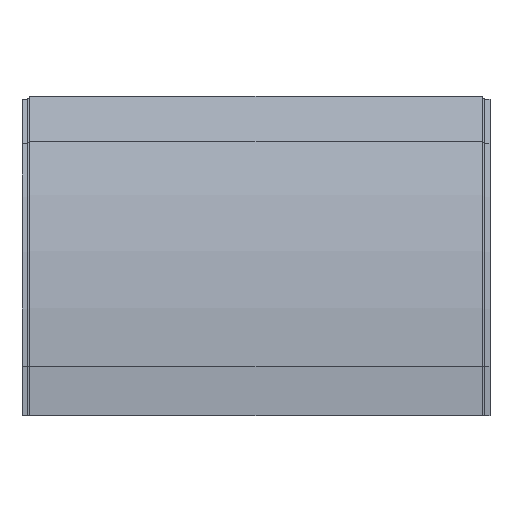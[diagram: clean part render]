
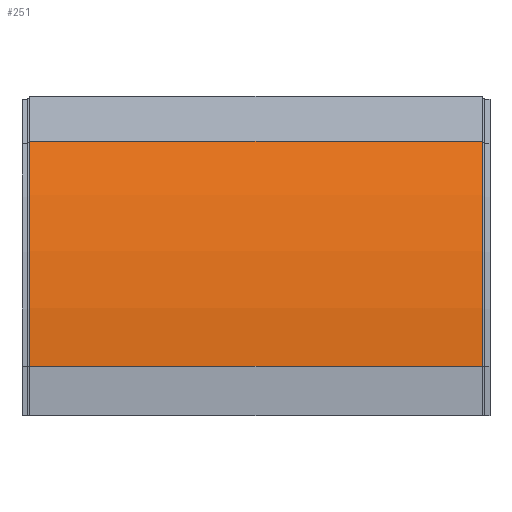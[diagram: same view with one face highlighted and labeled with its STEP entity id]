
A CAD part, front view. The second image highlights one B-rep face of the part: STEP entity #251.
In plain terms, the highlighted cylindrical face has radius 568.25 mm (diameter 1136.5 mm), a partial arc.
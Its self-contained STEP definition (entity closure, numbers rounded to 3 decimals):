
#49 = VERTEX_POINT ( 'NONE', #813 ) ;
#115 = EDGE_CURVE ( 'NONE', #117, #929, #1180, .T. ) ;
#117 = VERTEX_POINT ( 'NONE', #1379 ) ;
#172 = ORIENTED_EDGE ( 'NONE', *, *, #1185, .T. ) ;
#195 = EDGE_CURVE ( 'NONE', #49, #500, #1008, .T. ) ;
#213 = ORIENTED_EDGE ( 'NONE', *, *, #115, .F. ) ;
#251 = ADVANCED_FACE ( 'NONE', ( #722 ), #1333, .T. ) ;
#252 = DIRECTION ( 'NONE',  ( 1., 0., 0. ) ) ;
#280 = DIRECTION ( 'NONE',  ( 0., 0., 1. ) ) ;
#355 = CARTESIAN_POINT ( 'NONE',  ( -241.3, -15.009, 292.653 ) ) ;
#366 = AXIS2_PLACEMENT_3D ( 'NONE', #1044, #1139, #280 ) ;
#406 = LINE ( 'NONE', #355, #1245 ) ;
#409 = CARTESIAN_POINT ( 'NONE',  ( 241.3, 500., 52.5 ) ) ;
#414 = ORIENTED_EDGE ( 'NONE', *, *, #195, .T. ) ;
#500 = VERTEX_POINT ( 'NONE', #998 ) ;
#589 = ORIENTED_EDGE ( 'NONE', *, *, #1157, .F. ) ;
#659 = AXIS2_PLACEMENT_3D ( 'NONE', #1296, #747, #1069 ) ;
#664 = LINE ( 'NONE', #791, #1208 ) ;
#692 = DIRECTION ( 'NONE',  ( 1., 0., 0. ) ) ;
#722 = FACE_OUTER_BOUND ( 'NONE', #1130, .T. ) ;
#747 = DIRECTION ( 'NONE',  ( -1., 0., 0. ) ) ;
#791 = CARTESIAN_POINT ( 'NONE',  ( -241.3, -68.25, 52.5 ) ) ;
#806 = AXIS2_PLACEMENT_3D ( 'NONE', #409, #864, #1386 ) ;
#813 = CARTESIAN_POINT ( 'NONE',  ( 241.3, -68.25, 52.5 ) ) ;
#864 = DIRECTION ( 'NONE',  ( -1., 0., 0. ) ) ;
#870 = CARTESIAN_POINT ( 'NONE',  ( -241.3, -15.009, 292.653 ) ) ;
#929 = VERTEX_POINT ( 'NONE', #870 ) ;
#998 = CARTESIAN_POINT ( 'NONE',  ( 241.3, -15.009, 292.653 ) ) ;
#1008 = CIRCLE ( 'NONE', #806, 568.25 ) ;
#1044 = CARTESIAN_POINT ( 'NONE',  ( -241.3, 500., 52.5 ) ) ;
#1069 = DIRECTION ( 'NONE',  ( 0., 0., 1. ) ) ;
#1130 = EDGE_LOOP ( 'NONE', ( #172, #414, #589, #213 ) ) ;
#1139 = DIRECTION ( 'NONE',  ( -1., 0., 0. ) ) ;
#1157 = EDGE_CURVE ( 'NONE', #929, #500, #406, .T. ) ;
#1180 = CIRCLE ( 'NONE', #366, 568.25 ) ;
#1185 = EDGE_CURVE ( 'NONE', #117, #49, #664, .T. ) ;
#1208 = VECTOR ( 'NONE', #692, 1000. ) ;
#1245 = VECTOR ( 'NONE', #252, 1000. ) ;
#1296 = CARTESIAN_POINT ( 'NONE',  ( 0., 500., 52.5 ) ) ;
#1333 = CYLINDRICAL_SURFACE ( 'NONE', #659, 568.25 ) ;
#1379 = CARTESIAN_POINT ( 'NONE',  ( -241.3, -68.25, 52.5 ) ) ;
#1386 = DIRECTION ( 'NONE',  ( 0., 0., 1. ) ) ;
